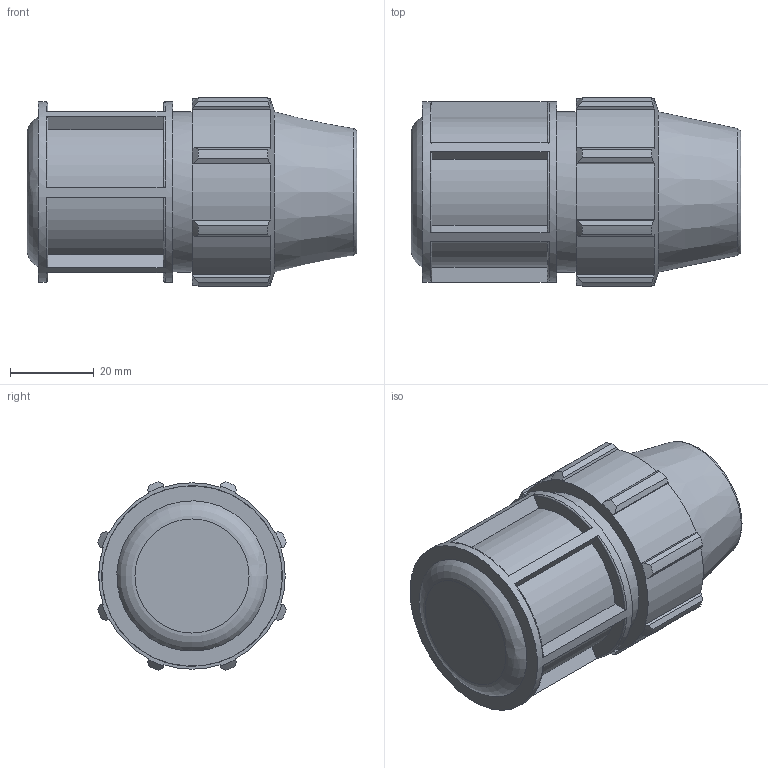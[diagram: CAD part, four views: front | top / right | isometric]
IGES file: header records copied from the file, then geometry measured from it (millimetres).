
Global section: file name: 071200020_181200020_0712060200A.ipt; native system: Autodesk Inventor 2015; preprocessor: unknown; author: Кирилл,,11,0; organization: 20170224.180708; date: 20170606.110529; units: millimetre
Bounding box: 79 x 45.16 x 45.16 mm (x, y, z)
Volume: 69594.7 mm3; surface area: 19696.5 mm2
Topology: 1 solids, 1 shells, 115 faces, 313 edges, 210 vertices
Faces by surface type: plane 63, cylinder 24, revolution 18, cone 10
Full cylindrical faces by diameter (mm): 38.4 x1, 43.2 x1
